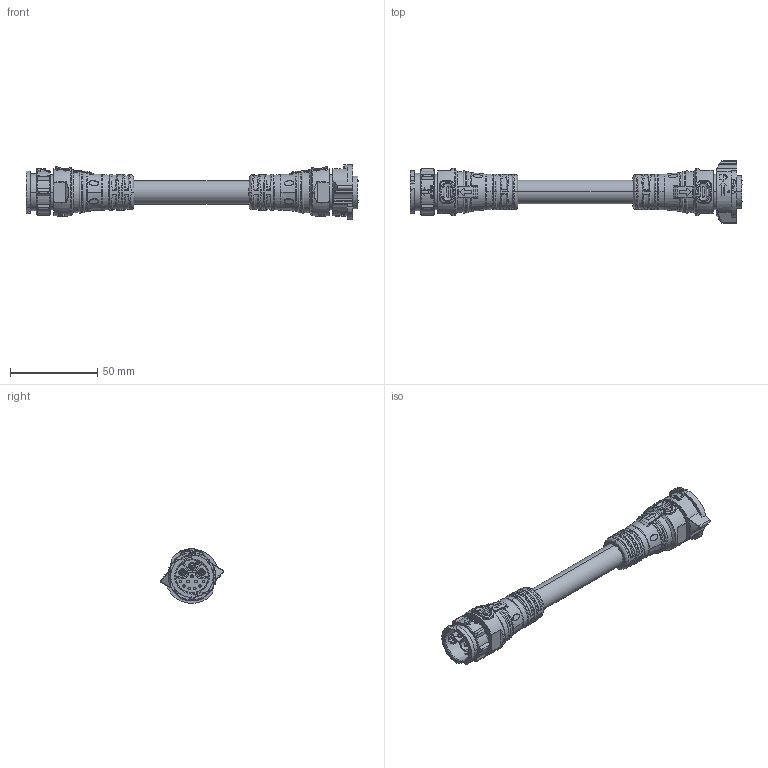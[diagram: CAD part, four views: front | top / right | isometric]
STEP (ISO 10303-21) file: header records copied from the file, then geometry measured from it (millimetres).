
FILE_DESCRIPTION((''),'2;1');
FILE_NAME('AB-DCDXXML-DCDBL-QFXX_SW0001','2020-02-07T',('L100003'),(''),'PRO/ENGINEER BY PARAMETRIC TECHNOLOGY CORPORATION, 2017170','PRO/ENGINEER BY PARAMETRIC TECHNOLOGY CORPORATION, 2017170','');
FILE_SCHEMA(('CONFIG_CONTROL_DESIGN'));
Products named in the file (1): AB-DCDXXML-DCDBL-QFXX_SW0001
Bounding box: 190 x 36 x 31.26 mm (x, y, z)
Volume: 55928.2 mm3; surface area: 21801.7 mm2
Topology: 1 solids, 1 shells, 2005 faces, 5176 edges, 3315 vertices
Faces by surface type: plane 672, cylinder 414, bspline 336, extrusion 302, cone 119, torus 103, sphere 41, revolution 18
Entity records: 100892 total; most frequent: CARTESIAN_POINT 55981, ORIENTED_EDGE 10352, DIRECTION 7635, EDGE_CURVE 5176, VERTEX_POINT 3315, AXIS2_PLACEMENT_3D 2817, B_SPLINE_CURVE_WITH_KNOTS 2347, EDGE_LOOP 2171
